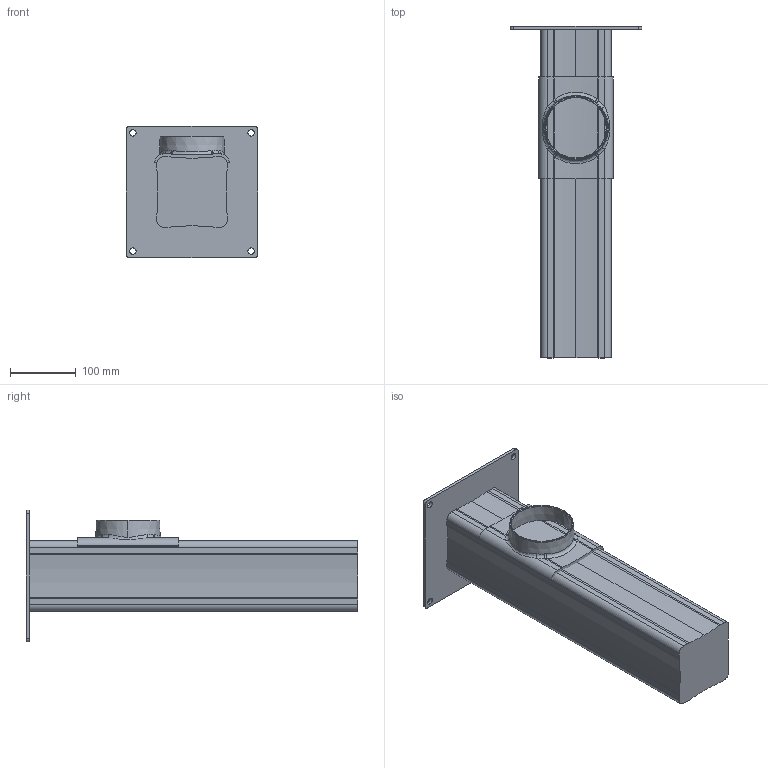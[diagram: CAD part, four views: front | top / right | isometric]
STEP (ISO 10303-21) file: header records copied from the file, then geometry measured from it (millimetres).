
FILE_DESCRIPTION((''),'2;1');
FILE_NAME('101342','2015-01-09T',('Tomas Bellgran'),(''),'PRO/ENGINEER BY PARAMETRIC TECHNOLOGY CORPORATION, 2013410','PRO/ENGINEER BY PARAMETRIC TECHNOLOGY CORPORATION, 2013410','');
FILE_SCHEMA(('AUTOMOTIVE_DESIGN { 1 0 10303 214 1 1 1 1 }'));
Length unit declared in the file: millimetre
Products named in the file (6): 100761; 100727; G_MTI_SPIGOT_75; G_MTI_SPIGOT_75_TPE; 101335; 101342
Assembly tree (5 placements, depth 3):
  101342
    100761
    100727
    101335
      G_MTI_SPIGOT_75
      G_MTI_SPIGOT_75_TPE
Bounding box: 200 x 505 x 200 mm (x, y, z)
Volume: 5940163.2 mm3; surface area: 370264.1 mm2
Topology: 4 solids, 4 shells, 151 faces, 365 edges, 221 vertices
Faces by surface type: bspline 56, cylinder 45, plane 30, torus 12, cone 8
Entity records: 11079 total; most frequent: CARTESIAN_POINT 4469, ORIENTED_EDGE 730, DIRECTION 598, PRESENTATION_STYLE_ASSIGNMENT 464, STYLED_ITEM 464, CURVE_STYLE 365, EDGE_CURVE 365, PROPERTY_DEFINITION 256
